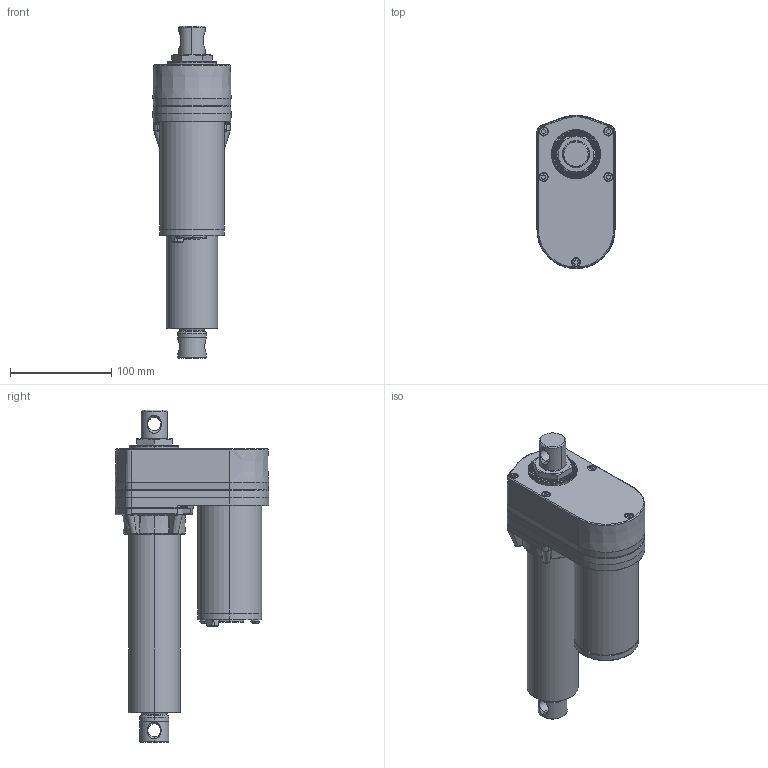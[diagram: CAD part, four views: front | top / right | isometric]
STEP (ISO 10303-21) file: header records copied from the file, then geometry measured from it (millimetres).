
FILE_DESCRIPTION((''),' ');
FILE_NAME('dszy3_std_102.stp',' ',('R. Lindner'),('MSW GmbH'),' ','ACIS 14.0',' ');
FILE_SCHEMA(('automotive_design'));
Length unit declared in the file: inch
Products named in the file (2): DSZY3-STD-102|NAUO1#-1;Â°Â£Â®Ã†-Â¦Ã¹ÂªÃ¸10; DSZY3-STD-102|NAUO2#-2;Â°Â£Â®Ã†-Â±Ã›Ã‚Ã 4
Bounding box: 77.15 x 151.65 x 327.8 mm (x, y, z)
Volume: 1454117.1 mm3; surface area: 137889.3 mm2
Topology: 2 solids, 2 shells, 892 faces, 2315 edges, 1453 vertices
Faces by surface type: plane 513, cylinder 163, bspline 102, torus 66, cone 48
Entity records: 38381 total; most frequent: CARTESIAN_POINT 11602, ORIENTED_EDGE 4614, DIRECTION 3624, EDGE_CURVE 2307, VERTEX_POINT 1453, AXIS2_PLACEMENT_3D 1335, LINE 954, VECTOR 954
